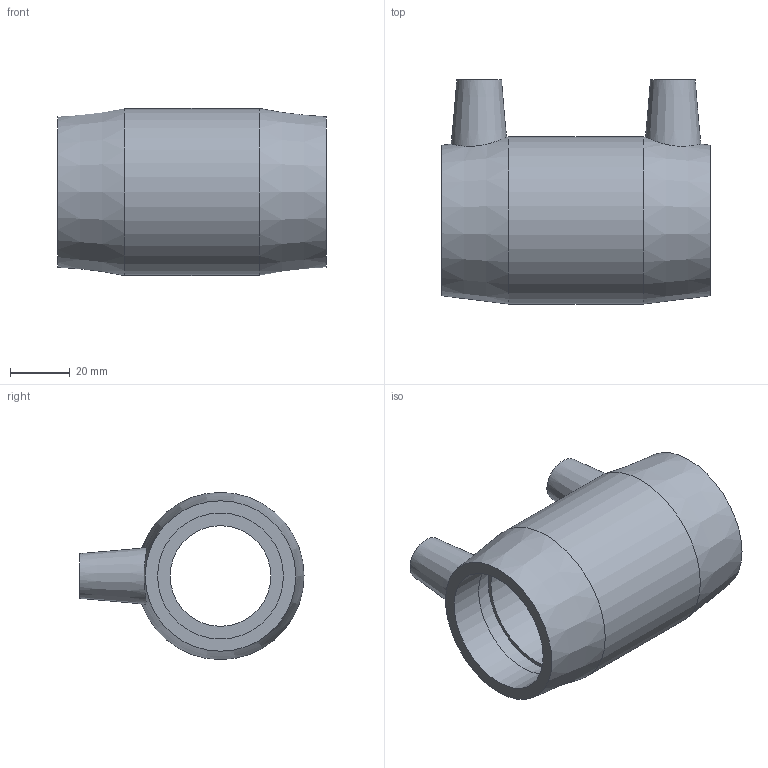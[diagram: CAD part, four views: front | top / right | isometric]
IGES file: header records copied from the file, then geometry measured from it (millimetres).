
Global section: file name: 5901U004013.ipt; native system: Autodesk Inventor 2019; preprocessor: unknown; author: KIM; date: 20210830.100937; units: inch
Bounding box: 89.92 x 74.93 x 55.88 mm (x, y, z)
Volume: 92562.1 mm3; surface area: 33059.6 mm2
Topology: 1 solids, 1 shells, 28 faces, 64 edges, 46 vertices
Faces by surface type: plane 12, revolution 9, cone 4, cylinder 3
Full cylindrical faces by diameter (mm): 4 x2, 55.88 x1
